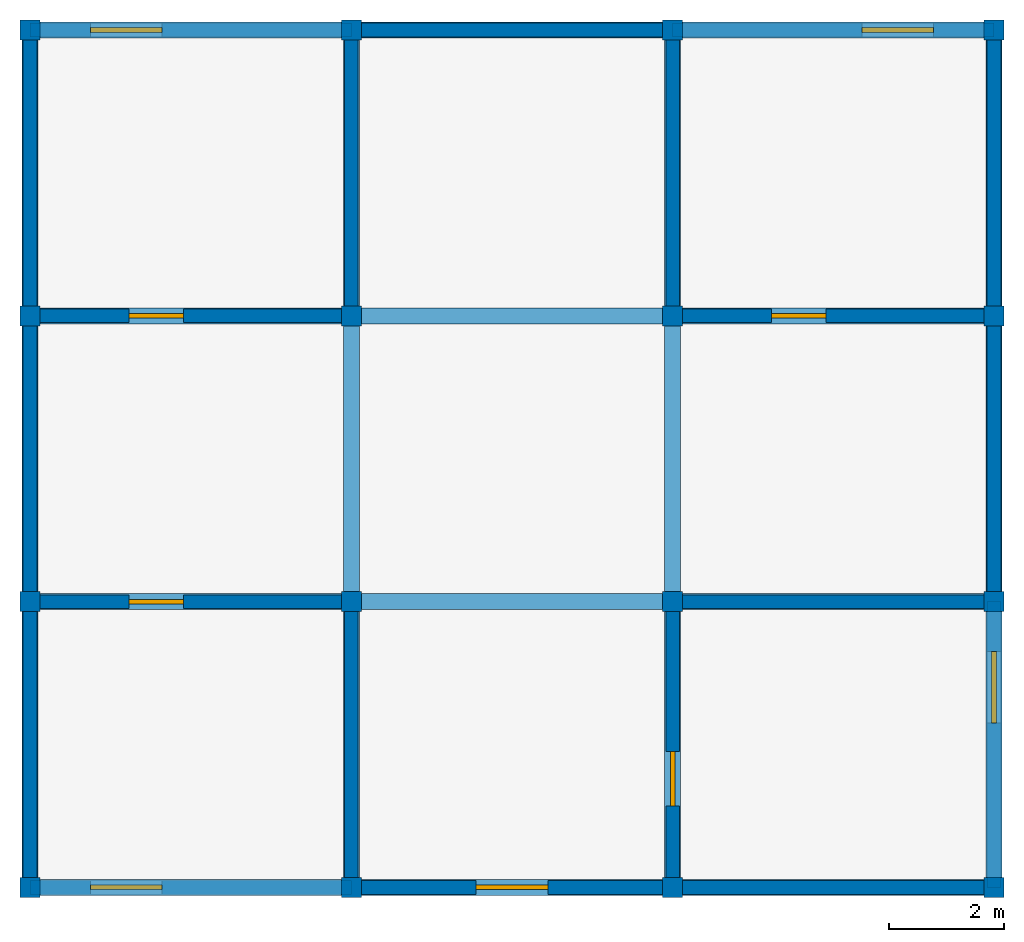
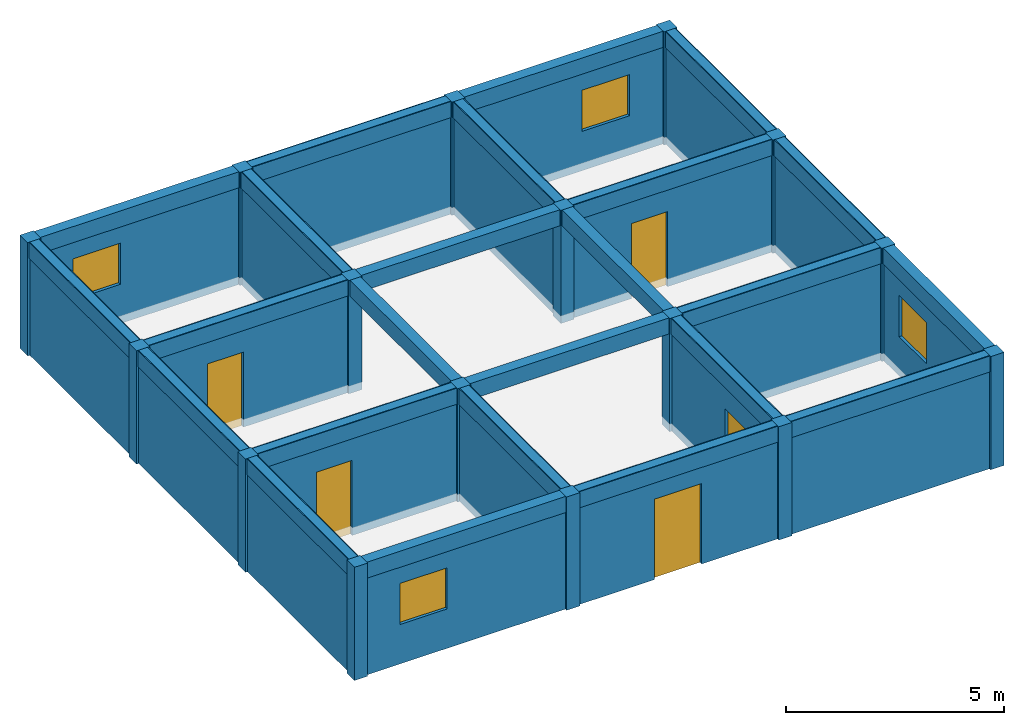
# One storey, incomplete: 24 beams, 20 walls, 16 columns, 5 doors, 4 windows, 9 openings.
"""IFC4X3 building model written with IfcOpenShell, lengths in metres."""

import ifcopenshell
import ifcopenshell.guid

model = None  # the IFC model being written
_history = None  # IfcOwnerHistory: only IFC2X3 demands one
_inside = {}  # id of a spatial element -> (the spatial element, [elements in it])
_under = {}  # id of a project, library or spatial element -> (it, [spatial elements below it])
_declared = {}  # id of a project -> (the project, [libraries it declares])
_typed = {}  # id of a type object -> (the type object, [elements of that type])
_made_of = {}  # id of a material, layer set ... -> (it, [elements and type objects made of it])


def new_model(schema):
    """Start an empty IFC model of exactly this schema.

    Asked for "IFC4X3", IfcOpenShell would pick the latest addendum, in which some entities
    have other attributes; the version numbers below select the first issue.
    IFC2X3 requires an IfcOwnerHistory on every rooted entity: one is made here for all.
    """
    global model, _history
    if schema == "IFC4X3":
        model = ifcopenshell.file(schema_version=(4, 3, 0, 0))
    else:
        model = ifcopenshell.file(schema=schema)
    _inside.clear()
    _under.clear()
    _declared.clear()
    _typed.clear()
    _made_of.clear()
    _history = None
    if model.schema == "IFC2X3":
        org = make("IfcOrganization", Name="unknown")
        user = make(
            "IfcPersonAndOrganization",
            ThePerson=make("IfcPerson", FamilyName="unknown"),
            TheOrganization=org,
        )
        app = make(
            "IfcApplication",
            ApplicationDeveloper=org,
            Version="unknown",
            ApplicationFullName="unknown",
            ApplicationIdentifier="unknown",
        )
        _history = make(
            "IfcOwnerHistory",
            OwningUser=user,
            OwningApplication=app,
            ChangeAction="ADDED",
            CreationDate=0,
        )
    return model


def make(cls, **values):
    """One entity of the class cls with the attributes given. An attribute that is None is left unset."""
    return model.create_entity(
        cls, **{name: value for name, value in values.items() if value is not None}
    )


def rooted(cls, **values):
    """An entity with a GlobalId (a new one), such as an element, a storey or a relation."""
    return make(cls, GlobalId=ifcopenshell.guid.new(), OwnerHistory=_history, **values)


def si_unit(unit_type, name, prefix=None):
    """IfcSIUnit, for example si_unit("LENGTHUNIT", "METRE", prefix="MILLI")."""
    return make("IfcSIUnit", UnitType=unit_type, Prefix=prefix, Name=name)


def assignment(units):
    """IfcUnitAssignment: the units of a project."""
    return None if units is None else make("IfcUnitAssignment", Units=units)


def point(xyz):
    """IfcCartesianPoint."""
    return None if xyz is None else make("IfcCartesianPoint", Coordinates=xyz)


def direction(xyz):
    """IfcDirection."""
    return None if xyz is None else make("IfcDirection", DirectionRatios=xyz)


def frame(location, z_axis=None, x_axis=None):
    """IfcAxis2Placement3D, a coordinate frame: its origin and axes. An axis left out is left unset."""
    return make(
        "IfcAxis2Placement3D",
        Location=point(location),
        Axis=direction(z_axis),
        RefDirection=direction(x_axis),
    )


def frame_2d(location, x_axis=None):
    """IfcAxis2Placement2D, a coordinate frame in the plane: its origin and x axis."""
    return make(
        "IfcAxis2Placement2D", Location=point(location), RefDirection=direction(x_axis)
    )


def origin_with_axes():
    """The frame at (0, 0, 0) with the z axis (0, 0, 1) and the x axis (1, 0, 0) written out."""
    return frame((0.0, 0.0, 0.0), z_axis=(0.0, 0.0, 1.0), x_axis=(1.0, 0.0, 0.0))


def origin_2d():
    """The frame at (0, 0) in the plane with its x axis left unset."""
    return frame_2d((0.0, 0.0))


def place(relative_to, where):
    """IfcLocalPlacement: puts the frame where relative to a parent placement (None: the world)."""
    return make(
        "IfcLocalPlacement", PlacementRelTo=relative_to, RelativePlacement=where
    )


def context(
    kind, dimensions, precision=None, world=None, true_north=None, identifier=None
):
    """IfcGeometricRepresentationContext, for example the 3D "Model" context."""
    return make(
        "IfcGeometricRepresentationContext",
        ContextIdentifier=identifier,
        ContextType=kind,
        CoordinateSpaceDimension=dimensions,
        Precision=precision,
        WorldCoordinateSystem=world,
        TrueNorth=true_north,
    )


def project(units=None, contexts=None):
    """IfcProject with its units and contexts."""
    return rooted(
        "IfcProject",
        Name="project",
        RepresentationContexts=contexts,
        UnitsInContext=assignment(units),
    )


def spatial(cls, under=None, at=None, **own):
    """A site, building, storey or space (cls), placed at a placement, below another one or the project."""
    s = rooted(cls, ObjectPlacement=at, **own)
    if under is not None:
        _under.setdefault(under.id(), (under, []))[1].append(s)
    return s


def profile(cls, at=None, kind="AREA", **sizes):
    """A parametric profile (cls). Its sizes go by their IFC names, for example OverallWidth=200.0."""
    return make(cls, ProfileType=kind, Position=at, **sizes)


def rectangle(**sizes):
    """IfcRectangleProfileDef."""
    return profile("IfcRectangleProfileDef", **sizes)


def extrude(swept, where, along, depth):
    """IfcExtrudedAreaSolid: the profile swept, set in the frame where, extruded along a direction by depth."""
    return make(
        "IfcExtrudedAreaSolid",
        SweptArea=swept,
        Position=where,
        ExtrudedDirection=direction(along),
        Depth=depth,
    )


def shape(context_of_items, identifier, shape_type, items):
    """IfcShapeRepresentation: the items that make up one representation, for example the "Body"."""
    return make(
        "IfcShapeRepresentation",
        ContextOfItems=context_of_items,
        RepresentationIdentifier=identifier,
        RepresentationType=shape_type,
        Items=items,
    )


def material(Name=None, Category=None):
    """IfcMaterial."""
    return make("IfcMaterial", Name=Name, Category=Category)


def made_of(thing, what):
    """Note that an element or type object is made of a material, layer set ...; save() writes the relation."""
    if what is not None:
        _made_of.setdefault(what.id(), (what, []))[1].append(thing)
    return thing


def element(
    cls,
    number,
    at=None,
    inside=None,
    cuts=None,
    type_object=None,
    material=None,
    context=None,
    identifier="Body",
    shape_type=None,
    held_by="IfcProductDefinitionShape",
    body=None,
    shapes=None,
    **own,
):
    """One element of the class cls, such as IfcWall. Its Tag is "e" and its number.

    at: its placement. inside: the storey or other place that contains it. cuts: it is an
    opening in that element (IfcRelVoidsElement). A single representation is given by context,
    identifier, shape_type and body (its items); several are given by shapes. held_by: the class
    of the entity that holds the representations. save() writes the other relations.
    """
    e = rooted(cls, Tag="e%d" % number, ObjectPlacement=at, **own)
    if body is not None:
        shapes = [shape(context, identifier, shape_type, body)]
    if shapes is not None:
        e.Representation = make(held_by, Representations=shapes)
    if inside is not None:
        _inside.setdefault(inside.id(), (inside, []))[1].append(e)
    if cuts is not None:
        rooted(
            "IfcRelVoidsElement", RelatingBuildingElement=cuts, RelatedOpeningElement=e
        )
    if type_object is not None:
        _typed.setdefault(type_object.id(), (type_object, []))[1].append(e)
    return made_of(e, material)


def fill(opening, filler):
    """IfcRelFillsElement: the door or window that sits in an opening."""
    return rooted(
        "IfcRelFillsElement",
        RelatingOpeningElement=opening,
        RelatedBuildingElement=filler,
    )


def aggregate(whole, parts):
    """IfcRelAggregates: a whole, such as a stair, and the parts it consists of."""
    return rooted("IfcRelAggregates", RelatingObject=whole, RelatedObjects=parts)


def save(model, path):
    """Write the relations noted so far, then the file.

    IfcRelAggregates (storeys below a building ...), IfcRelContainedInSpatialStructure (elements
    in a storey), IfcRelDefinesByType, IfcRelAssociatesMaterial and IfcRelDeclares: one each for
    every whole, place, type object, material and project.
    """
    for whole, parts in _under.values():
        aggregate(whole, parts)
    for where, things in _inside.values():
        rooted(
            "IfcRelContainedInSpatialStructure",
            RelatedElements=things,
            RelatingStructure=where,
        )
    for kind, things in _typed.values():
        rooted("IfcRelDefinesByType", RelatedObjects=things, RelatingType=kind)
    for what, things in _made_of.values():
        rooted("IfcRelAssociatesMaterial", RelatedObjects=things, RelatingMaterial=what)
    for by, libraries in _declared.values():
        rooted("IfcRelDeclares", RelatingContext=by, RelatedDefinitions=libraries)
    model.write(path)


model = new_model("IFC4X3")

# Units and contexts
model_context = context("Model", 3, precision=1e-05, world=origin_with_axes())
ifc_project = project(units=[si_unit("LENGTHUNIT", "METRE"), si_unit("AREAUNIT", "SQUARE_METRE"), si_unit("VOLUMEUNIT", "CUBIC_METRE")], contexts=[model_context])

# Site, building, storey
site = spatial("IfcSite", under=ifc_project, Name="Puerto Montt Parcel", CompositionType="ELEMENT")
building = spatial("IfcBuilding", under=site, Name="Apex Hub", CompositionType="ELEMENT")
storey = spatial("IfcBuildingStorey", under=building, Name="Level 1", CompositionType="ELEMENT")

# Columns
ifc_material_1 = material(Name="Concrete")
column_1_placement = place(None, frame((-8.415, -7.485, 0.0), z_axis=(0.0, 0.0, 1.0), x_axis=(1.0, 0.0, 0.0)))
element("IfcColumn", 1, at=column_1_placement, inside=storey, material=ifc_material_1, Name="Column 1.1", ObjectType="Core Column", PredefinedType="COLUMN", context=model_context, shape_type="SweptSolid", body=[
    extrude(rectangle(XDim=0.35, YDim=0.35, at=origin_2d()), origin_with_axes(), (0.0, 0.0, 1.0), 3.167),
])
column_2_placement = place(None, frame((-8.415, -2.495, 0.0), z_axis=(0.0, 0.0, 1.0), x_axis=(1.0, 0.0, 0.0)))
element("IfcColumn", 2, at=column_2_placement, inside=storey, material=ifc_material_1, Name="Column 1.2", ObjectType="Structural Column", PredefinedType="COLUMN", context=model_context, shape_type="SweptSolid", body=[
    extrude(rectangle(XDim=0.35, YDim=0.35, at=origin_2d()), origin_with_axes(), (0.0, 0.0, 1.0), 3.167),
])
column_3_placement = place(None, frame((-8.415, 2.495, 0.0), z_axis=(0.0, 0.0, 1.0), x_axis=(1.0, 0.0, 0.0)))
element("IfcColumn", 3, at=column_3_placement, inside=storey, material=ifc_material_1, Name="Column 1.3", ObjectType="Facade Column", PredefinedType="USERDEFINED", context=model_context, shape_type="SweptSolid", body=[
    extrude(rectangle(XDim=0.35, YDim=0.35, at=origin_2d()), origin_with_axes(), (0.0, 0.0, 1.0), 3.167),
])
for number, where, z_axis, x_axis, name in (
    (4, (-8.415, 7.485, 0.0), (0.0, 0.0, 1.0), (1.0, 0.0, 0.0), "Column 1.4"),
    (5, (-2.805, -7.485, 0.0), (0.0, 0.0, 1.0), (1.0, 0.0, 0.0), "Column 1.5"),
):
    element("IfcColumn", number, at=place(None, frame(where, z_axis=z_axis, x_axis=x_axis)), inside=storey, material=ifc_material_1, Name=name, ObjectType="Structural Column", PredefinedType="PILASTER", context=model_context, shape_type="SweptSolid", body=[
        extrude(rectangle(XDim=0.35, YDim=0.35, at=origin_2d()), origin_with_axes(), (0.0, 0.0, 1.0), 3.167),
    ])
column_4_placement = place(None, frame((-2.805, -2.495, 0.0), z_axis=(0.0, 0.0, 1.0), x_axis=(1.0, 0.0, 0.0)))
element("IfcColumn", 6, at=column_4_placement, inside=storey, material=ifc_material_1, Name="Column 1.6", ObjectType="Core Column", PredefinedType="PILASTER", context=model_context, shape_type="SweptSolid", body=[
    extrude(rectangle(XDim=0.35, YDim=0.35, at=origin_2d()), origin_with_axes(), (0.0, 0.0, 1.0), 3.167),
])
column_5_placement = place(None, frame((-2.805, 2.495, 0.0), z_axis=(0.0, 0.0, 1.0), x_axis=(1.0, 0.0, 0.0)))
element("IfcColumn", 7, at=column_5_placement, inside=storey, material=ifc_material_1, Name="Column 1.7", ObjectType="Facade Column", PredefinedType="NOTDEFINED", context=model_context, shape_type="SweptSolid", body=[
    extrude(rectangle(XDim=0.35, YDim=0.35, at=origin_2d()), origin_with_axes(), (0.0, 0.0, 1.0), 3.167),
])
column_6_placement = place(None, frame((-2.805, 7.485, 0.0), z_axis=(0.0, 0.0, 1.0), x_axis=(1.0, 0.0, 0.0)))
element("IfcColumn", 8, at=column_6_placement, inside=storey, material=ifc_material_1, Name="Column 1.8", ObjectType="Corner Column", PredefinedType="COLUMN", context=model_context, shape_type="SweptSolid", body=[
    extrude(rectangle(XDim=0.35, YDim=0.35, at=origin_2d()), origin_with_axes(), (0.0, 0.0, 1.0), 3.167),
])
column_7_placement = place(None, frame((2.805, -7.485, 0.0), z_axis=(0.0, 0.0, 1.0), x_axis=(1.0, 0.0, 0.0)))
element("IfcColumn", 9, at=column_7_placement, inside=storey, material=ifc_material_1, Name="Column 1.9", ObjectType="Structural Column", PredefinedType="PILASTER", context=model_context, shape_type="SweptSolid", body=[
    extrude(rectangle(XDim=0.35, YDim=0.35, at=origin_2d()), origin_with_axes(), (0.0, 0.0, 1.0), 3.167),
])
column_8_placement = place(None, frame((2.805, -2.495, 0.0), z_axis=(0.0, 0.0, 1.0), x_axis=(1.0, 0.0, 0.0)))
element("IfcColumn", 10, at=column_8_placement, inside=storey, material=ifc_material_1, Name="Column 1.10", ObjectType="Core Column", PredefinedType="NOTDEFINED", context=model_context, shape_type="SweptSolid", body=[
    extrude(rectangle(XDim=0.35, YDim=0.35, at=origin_2d()), origin_with_axes(), (0.0, 0.0, 1.0), 3.167),
])
column_9_placement = place(None, frame((2.805, 2.495, 0.0), z_axis=(0.0, 0.0, 1.0), x_axis=(1.0, 0.0, 0.0)))
element("IfcColumn", 11, at=column_9_placement, inside=storey, material=ifc_material_1, Name="Column 1.11", ObjectType="Core Column", PredefinedType="USERDEFINED", context=model_context, shape_type="SweptSolid", body=[
    extrude(rectangle(XDim=0.35, YDim=0.35, at=origin_2d()), origin_with_axes(), (0.0, 0.0, 1.0), 3.167),
])
column_10_placement = place(None, frame((2.805, 7.485, 0.0), z_axis=(0.0, 0.0, 1.0), x_axis=(1.0, 0.0, 0.0)))
element("IfcColumn", 12, at=column_10_placement, inside=storey, material=ifc_material_1, Name="Column 1.12", ObjectType="Corner Column", PredefinedType="USERDEFINED", context=model_context, shape_type="SweptSolid", body=[
    extrude(rectangle(XDim=0.35, YDim=0.35, at=origin_2d()), origin_with_axes(), (0.0, 0.0, 1.0), 3.167),
])
column_11_placement = place(None, frame((8.415, -7.485, 0.0), z_axis=(0.0, 0.0, 1.0), x_axis=(1.0, 0.0, 0.0)))
element("IfcColumn", 13, at=column_11_placement, inside=storey, material=ifc_material_1, Name="Column 1.13", ObjectType="Core Column", PredefinedType="PILASTER", context=model_context, shape_type="SweptSolid", body=[
    extrude(rectangle(XDim=0.35, YDim=0.35, at=origin_2d()), origin_with_axes(), (0.0, 0.0, 1.0), 3.167),
])
column_12_placement = place(None, frame((8.415, -2.495, 0.0), z_axis=(0.0, 0.0, 1.0), x_axis=(1.0, 0.0, 0.0)))
element("IfcColumn", 14, at=column_12_placement, inside=storey, material=ifc_material_1, Name="Column 1.14", ObjectType="Structural Column", PredefinedType="COLUMN", context=model_context, shape_type="SweptSolid", body=[
    extrude(rectangle(XDim=0.35, YDim=0.35, at=origin_2d()), origin_with_axes(), (0.0, 0.0, 1.0), 3.167),
])
column_13_placement = place(None, frame((8.415, 2.495, 0.0), z_axis=(0.0, 0.0, 1.0), x_axis=(1.0, 0.0, 0.0)))
element("IfcColumn", 15, at=column_13_placement, inside=storey, material=ifc_material_1, Name="Column 1.15", ObjectType="Facade Column", PredefinedType="PILASTER", context=model_context, shape_type="SweptSolid", body=[
    extrude(rectangle(XDim=0.35, YDim=0.35, at=origin_2d()), origin_with_axes(), (0.0, 0.0, 1.0), 3.167),
])
column_14_placement = place(None, frame((8.415, 7.485, 0.0), z_axis=(0.0, 0.0, 1.0), x_axis=(1.0, 0.0, 0.0)))
element("IfcColumn", 16, at=column_14_placement, inside=storey, material=ifc_material_1, Name="Column 1.16", ObjectType="Corner Column", PredefinedType="COLUMN", context=model_context, shape_type="SweptSolid", body=[
    extrude(rectangle(XDim=0.35, YDim=0.35, at=origin_2d()), origin_with_axes(), (0.0, 0.0, 1.0), 3.167),
])

# Beams
beam_1_placement = place(None, frame((-5.61, -7.485, 2.717), z_axis=(0.0, 0.0, 1.0), x_axis=(1.0, 0.0, 0.0)))
element("IfcBeam", 17, at=beam_1_placement, inside=storey, material=ifc_material_1, Name="Beam 1.1", ObjectType="Primary Beam", PredefinedType="NOTDEFINED", context=model_context, shape_type="SweptSolid", body=[
    extrude(rectangle(XDim=5.61, YDim=0.28, at=origin_2d()), origin_with_axes(), (0.0, 0.0, 1.0), 0.45),
])
beam_2_placement = place(None, frame((0.0, -7.485, 2.717), z_axis=(0.0, 0.0, 1.0), x_axis=(1.0, 0.0, 0.0)))
element("IfcBeam", 18, at=beam_2_placement, inside=storey, material=ifc_material_1, Name="Beam 1.2", ObjectType="Transfer Beam", PredefinedType="T_BEAM", context=model_context, shape_type="SweptSolid", body=[
    extrude(rectangle(XDim=5.61, YDim=0.28, at=origin_2d()), origin_with_axes(), (0.0, 0.0, 1.0), 0.45),
])
beam_3_placement = place(None, frame((5.61, -7.485, 2.717), z_axis=(0.0, 0.0, 1.0), x_axis=(1.0, 0.0, 0.0)))
element("IfcBeam", 19, at=beam_3_placement, inside=storey, material=ifc_material_1, Name="Beam 1.3", ObjectType="Rafter Beam", PredefinedType="JOIST", context=model_context, shape_type="SweptSolid", body=[
    extrude(rectangle(XDim=5.61, YDim=0.28, at=origin_2d()), origin_with_axes(), (0.0, 0.0, 1.0), 0.45),
])
beam_4_placement = place(None, frame((-5.61, -2.495, 2.717), z_axis=(0.0, 0.0, 1.0), x_axis=(1.0, 0.0, 0.0)))
element("IfcBeam", 20, at=beam_4_placement, inside=storey, material=ifc_material_1, Name="Beam 1.4", ObjectType="Secondary Beam", PredefinedType="BEAM", context=model_context, shape_type="SweptSolid", body=[
    extrude(rectangle(XDim=5.61, YDim=0.28, at=origin_2d()), origin_with_axes(), (0.0, 0.0, 1.0), 0.45),
])
beam_5_placement = place(None, frame((0.0, -2.495, 2.717), z_axis=(0.0, 0.0, 1.0), x_axis=(1.0, 0.0, 0.0)))
element("IfcBeam", 21, at=beam_5_placement, inside=storey, material=ifc_material_1, Name="Beam 1.5", ObjectType="Rafter Beam", PredefinedType="NOTDEFINED", context=model_context, shape_type="SweptSolid", body=[
    extrude(rectangle(XDim=5.61, YDim=0.28, at=origin_2d()), origin_with_axes(), (0.0, 0.0, 1.0), 0.45),
])
beam_6_placement = place(None, frame((5.61, -2.495, 2.717), z_axis=(0.0, 0.0, 1.0), x_axis=(1.0, 0.0, 0.0)))
element("IfcBeam", 22, at=beam_6_placement, inside=storey, material=ifc_material_1, Name="Beam 1.6", ObjectType="Secondary Beam", PredefinedType="JOIST", context=model_context, shape_type="SweptSolid", body=[
    extrude(rectangle(XDim=5.61, YDim=0.28, at=origin_2d()), origin_with_axes(), (0.0, 0.0, 1.0), 0.45),
])
beam_7_placement = place(None, frame((-5.61, 2.495, 2.717), z_axis=(0.0, 0.0, 1.0), x_axis=(1.0, 0.0, 0.0)))
element("IfcBeam", 23, at=beam_7_placement, inside=storey, material=ifc_material_1, Name="Beam 1.7", ObjectType="Rafter Beam", PredefinedType="SPANDREL", context=model_context, shape_type="SweptSolid", body=[
    extrude(rectangle(XDim=5.61, YDim=0.28, at=origin_2d()), origin_with_axes(), (0.0, 0.0, 1.0), 0.45),
])
beam_8_placement = place(None, frame((0.0, 2.495, 2.717), z_axis=(0.0, 0.0, 1.0), x_axis=(1.0, 0.0, 0.0)))
element("IfcBeam", 24, at=beam_8_placement, inside=storey, material=ifc_material_1, Name="Beam 1.8", ObjectType="Ridge Beam", PredefinedType="BEAM", context=model_context, shape_type="SweptSolid", body=[
    extrude(rectangle(XDim=5.61, YDim=0.28, at=origin_2d()), origin_with_axes(), (0.0, 0.0, 1.0), 0.45),
])
beam_9_placement = place(None, frame((5.61, 2.495, 2.717), z_axis=(0.0, 0.0, 1.0), x_axis=(1.0, 0.0, 0.0)))
element("IfcBeam", 25, at=beam_9_placement, inside=storey, material=ifc_material_1, Name="Beam 1.9", ObjectType="Rafter Beam", PredefinedType="LINTEL", context=model_context, shape_type="SweptSolid", body=[
    extrude(rectangle(XDim=5.61, YDim=0.28, at=origin_2d()), origin_with_axes(), (0.0, 0.0, 1.0), 0.45),
])
beam_10_placement = place(None, frame((-5.61, 7.485, 2.717), z_axis=(0.0, 0.0, 1.0), x_axis=(1.0, 0.0, 0.0)))
element("IfcBeam", 26, at=beam_10_placement, inside=storey, material=ifc_material_1, Name="Beam 1.10", ObjectType="Ridge Beam", PredefinedType="SPANDREL", context=model_context, shape_type="SweptSolid", body=[
    extrude(rectangle(XDim=5.61, YDim=0.28, at=origin_2d()), origin_with_axes(), (0.0, 0.0, 1.0), 0.45),
])
beam_11_placement = place(None, frame((0.0, 7.485, 2.717), z_axis=(0.0, 0.0, 1.0), x_axis=(1.0, 0.0, 0.0)))
element("IfcBeam", 27, at=beam_11_placement, inside=storey, material=ifc_material_1, Name="Beam 1.11", ObjectType="Transfer Beam", PredefinedType="JOIST", context=model_context, shape_type="SweptSolid", body=[
    extrude(rectangle(XDim=5.61, YDim=0.28, at=origin_2d()), origin_with_axes(), (0.0, 0.0, 1.0), 0.45),
])
beam_12_placement = place(None, frame((5.61, 7.485, 2.717), z_axis=(0.0, 0.0, 1.0), x_axis=(1.0, 0.0, 0.0)))
element("IfcBeam", 28, at=beam_12_placement, inside=storey, material=ifc_material_1, Name="Beam 1.12", ObjectType="Ridge Beam", PredefinedType="HOLLOWCORE", context=model_context, shape_type="SweptSolid", body=[
    extrude(rectangle(XDim=5.61, YDim=0.28, at=origin_2d()), origin_with_axes(), (0.0, 0.0, 1.0), 0.45),
])
for number, where, z_axis, x_axis, name in (
    (29, (-8.415, -4.99, 2.717), (0.0, 0.0, 1.0), (0.0, 1.0, 0.0), "Beam 1.13"),
    (30, (-8.415, 0.0, 2.717), (0.0, 0.0, 1.0), (0.0, 1.0, 0.0), "Beam 1.14"),
):
    element("IfcBeam", number, at=place(None, frame(where, z_axis=z_axis, x_axis=x_axis)), inside=storey, material=ifc_material_1, Name=name, ObjectType="Transfer Beam", PredefinedType="JOIST", context=model_context, shape_type="SweptSolid", body=[
        extrude(rectangle(XDim=4.99, YDim=0.28, at=origin_2d()), origin_with_axes(), (0.0, 0.0, 1.0), 0.45),
    ])
beam_13_placement = place(None, frame((-8.415, 4.99, 2.717), z_axis=(0.0, 0.0, 1.0), x_axis=(0.0, 1.0, 0.0)))
element("IfcBeam", 31, at=beam_13_placement, inside=storey, material=ifc_material_1, Name="Beam 1.15", ObjectType="Transfer Beam", PredefinedType="LINTEL", context=model_context, shape_type="SweptSolid", body=[
    extrude(rectangle(XDim=4.99, YDim=0.28, at=origin_2d()), origin_with_axes(), (0.0, 0.0, 1.0), 0.45),
])
beam_14_placement = place(None, frame((-2.805, -4.99, 2.717), z_axis=(0.0, 0.0, 1.0), x_axis=(0.0, 1.0, 0.0)))
element("IfcBeam", 32, at=beam_14_placement, inside=storey, material=ifc_material_1, Name="Beam 1.16", ObjectType="Secondary Beam", PredefinedType="BEAM", context=model_context, shape_type="SweptSolid", body=[
    extrude(rectangle(XDim=4.99, YDim=0.28, at=origin_2d()), origin_with_axes(), (0.0, 0.0, 1.0), 0.45),
])
beam_15_placement = place(None, frame((-2.805, 0.0, 2.717), z_axis=(0.0, 0.0, 1.0), x_axis=(0.0, 1.0, 0.0)))
element("IfcBeam", 33, at=beam_15_placement, inside=storey, material=ifc_material_1, Name="Beam 1.17", ObjectType="Secondary Beam", PredefinedType="USERDEFINED", context=model_context, shape_type="SweptSolid", body=[
    extrude(rectangle(XDim=4.99, YDim=0.28, at=origin_2d()), origin_with_axes(), (0.0, 0.0, 1.0), 0.45),
])
beam_16_placement = place(None, frame((-2.805, 4.99, 2.717), z_axis=(0.0, 0.0, 1.0), x_axis=(0.0, 1.0, 0.0)))
element("IfcBeam", 34, at=beam_16_placement, inside=storey, material=ifc_material_1, Name="Beam 1.18", ObjectType="Secondary Beam", PredefinedType="HOLLOWCORE", context=model_context, shape_type="SweptSolid", body=[
    extrude(rectangle(XDim=4.99, YDim=0.28, at=origin_2d()), origin_with_axes(), (0.0, 0.0, 1.0), 0.45),
])
beam_17_placement = place(None, frame((2.805, -4.99, 2.717), z_axis=(0.0, 0.0, 1.0), x_axis=(0.0, 1.0, 0.0)))
element("IfcBeam", 35, at=beam_17_placement, inside=storey, material=ifc_material_1, Name="Beam 1.19", ObjectType="Transfer Beam", PredefinedType="LINTEL", context=model_context, shape_type="SweptSolid", body=[
    extrude(rectangle(XDim=4.99, YDim=0.28, at=origin_2d()), origin_with_axes(), (0.0, 0.0, 1.0), 0.45),
])
beam_18_placement = place(None, frame((2.805, 0.0, 2.717), z_axis=(0.0, 0.0, 1.0), x_axis=(0.0, 1.0, 0.0)))
element("IfcBeam", 36, at=beam_18_placement, inside=storey, material=ifc_material_1, Name="Beam 1.20", ObjectType="Primary Beam", PredefinedType="LINTEL", context=model_context, shape_type="SweptSolid", body=[
    extrude(rectangle(XDim=4.99, YDim=0.28, at=origin_2d()), origin_with_axes(), (0.0, 0.0, 1.0), 0.45),
])
beam_19_placement = place(None, frame((2.805, 4.99, 2.717), z_axis=(0.0, 0.0, 1.0), x_axis=(0.0, 1.0, 0.0)))
element("IfcBeam", 37, at=beam_19_placement, inside=storey, material=ifc_material_1, Name="Beam 1.21", ObjectType="Ridge Beam", PredefinedType="JOIST", context=model_context, shape_type="SweptSolid", body=[
    extrude(rectangle(XDim=4.99, YDim=0.28, at=origin_2d()), origin_with_axes(), (0.0, 0.0, 1.0), 0.45),
])
beam_20_placement = place(None, frame((8.415, -4.99, 2.717), z_axis=(0.0, 0.0, 1.0), x_axis=(0.0, 1.0, 0.0)))
element("IfcBeam", 38, at=beam_20_placement, inside=storey, material=ifc_material_1, Name="Beam 1.22", ObjectType="Primary Beam", PredefinedType="T_BEAM", context=model_context, shape_type="SweptSolid", body=[
    extrude(rectangle(XDim=4.99, YDim=0.28, at=origin_2d()), origin_with_axes(), (0.0, 0.0, 1.0), 0.45),
])
beam_21_placement = place(None, frame((8.415, 0.0, 2.717), z_axis=(0.0, 0.0, 1.0), x_axis=(0.0, 1.0, 0.0)))
element("IfcBeam", 39, at=beam_21_placement, inside=storey, material=ifc_material_1, Name="Beam 1.23", ObjectType="Secondary Beam", PredefinedType="USERDEFINED", context=model_context, shape_type="SweptSolid", body=[
    extrude(rectangle(XDim=4.99, YDim=0.28, at=origin_2d()), origin_with_axes(), (0.0, 0.0, 1.0), 0.45),
])
beam_22_placement = place(None, frame((8.415, 4.99, 2.717), z_axis=(0.0, 0.0, 1.0), x_axis=(0.0, 1.0, 0.0)))
element("IfcBeam", 40, at=beam_22_placement, inside=storey, material=ifc_material_1, Name="Beam 1.24", ObjectType="Ridge Beam", PredefinedType="SPANDREL", context=model_context, shape_type="SweptSolid", body=[
    extrude(rectangle(XDim=4.99, YDim=0.28, at=origin_2d()), origin_with_axes(), (0.0, 0.0, 1.0), 0.45),
])

# Wall, opening, door
ifc_material_2 = material(Name="Gypsum")
wall_1_placement = place(None, frame((-5.61, -2.495, 0.0), z_axis=(0.0, 0.0, 1.0), x_axis=(1.0, 0.0, 0.0)))
wall_1 = element("IfcWall", 41, at=wall_1_placement, inside=storey, material=ifc_material_2, Name="Wall 1.1", ObjectType="Corridor Partition", PredefinedType="PLUMBINGWALL", context=model_context, shape_type="SweptSolid", body=[
    extrude(rectangle(XDim=5.61, YDim=0.238521, at=origin_2d()), origin_with_axes(), (0.0, 0.0, 1.0), 3.167),
])
opening_1_placement = place(None, frame((-6.21, -2.495, 0.0), z_axis=(0.0, 0.0, 1.0), x_axis=(1.0, 0.0, 0.0)))
opening_1 = element("IfcOpeningElement", 42, at=opening_1_placement, cuts=wall_1, Name="Door opening 1.1", ObjectType="Door Opening", PredefinedType="OPENING", context=model_context, shape_type="SweptSolid", body=[
    extrude(rectangle(XDim=0.95, YDim=0.318521, at=origin_2d()), origin_with_axes(), (0.0, 0.0, 1.0), 2.1),
])
door_1_placement = place(None, frame((-6.21, -2.495, 0.0), z_axis=(0.0, 0.0, 1.0), x_axis=(1.0, 0.0, 0.0)))
door_1 = element("IfcDoor", 43, at=door_1_placement, inside=storey, Name="Door 1.1", ObjectType="Fire Door", OverallHeight=2.1, OverallWidth=0.95, context=model_context, shape_type="SweptSolid", body=[
    extrude(rectangle(XDim=0.95, YDim=0.08, at=origin_2d()), origin_with_axes(), (0.0, 0.0, 1.0), 2.1),
])
fill(opening_1, door_1)

# Wall
wall_2_placement = place(None, frame((-2.805, -4.99, 0.0), z_axis=(0.0, 0.0, 1.0), x_axis=(0.0, 1.0, 0.0)))
element("IfcWall", 44, at=wall_2_placement, inside=storey, material=ifc_material_1, Name="Wall 1.2", ObjectType="Corridor Partition", PredefinedType="NOTDEFINED", context=model_context, shape_type="SweptSolid", body=[
    extrude(rectangle(XDim=4.99, YDim=0.238521, at=origin_2d()), origin_with_axes(), (0.0, 0.0, 1.0), 3.167),
])

# Wall, opening, window
wall_3_placement = place(None, frame((-5.61, -7.485, 0.0), z_axis=(0.0, 0.0, 1.0), x_axis=(1.0, 0.0, 0.0)))
wall_3 = element("IfcWall", 45, at=wall_3_placement, inside=storey, material=ifc_material_2, Name="Wall 1.3", ObjectType="Exterior Wall", PredefinedType="STANDARD", context=model_context, shape_type="SweptSolid", body=[
    extrude(rectangle(XDim=5.61, YDim=0.238521, at=origin_2d()), origin_with_axes(), (0.0, 0.0, 1.0), 3.167),
])
opening_2_placement = place(None, frame((-6.732, -7.485, 1.1), z_axis=(0.0, 0.0, 1.0), x_axis=(1.0, 0.0, 0.0)))
opening_2 = element("IfcOpeningElement", 46, at=opening_2_placement, cuts=wall_3, Name="Window opening 1.2", ObjectType="Window Opening", PredefinedType="OPENING", context=model_context, shape_type="SweptSolid", body=[
    extrude(rectangle(XDim=1.25, YDim=0.318521, at=origin_2d()), origin_with_axes(), (0.0, 0.0, 1.0), 1.15),
])
window_1_placement = place(None, frame((-6.732, -7.485, 1.1), z_axis=(0.0, 0.0, 1.0), x_axis=(1.0, 0.0, 0.0)))
window_1 = element("IfcWindow", 47, at=window_1_placement, inside=storey, Name="Window 1.2", ObjectType="Fixed Window", OverallHeight=1.15, OverallWidth=1.25, context=model_context, shape_type="SweptSolid", body=[
    extrude(rectangle(XDim=1.25, YDim=0.08, at=origin_2d()), origin_with_axes(), (0.0, 0.0, 1.0), 1.15),
])
fill(opening_2, window_1)

# Wall
ifc_material_3 = material(Name="CLT")
wall_4_placement = place(None, frame((-8.415, -4.99, 0.0), z_axis=(0.0, 0.0, 1.0), x_axis=(0.0, 1.0, 0.0)))
element("IfcWall", 48, at=wall_4_placement, inside=storey, material=ifc_material_3, Name="Wall 1.4", ObjectType="Exterior Wall", PredefinedType="PLUMBINGWALL", context=model_context, shape_type="SweptSolid", body=[
    extrude(rectangle(XDim=4.99, YDim=0.238521, at=origin_2d()), origin_with_axes(), (0.0, 0.0, 1.0), 3.167),
])

# Wall, opening, door
wall_5_placement = place(None, frame((2.805, -4.99, 0.0), z_axis=(0.0, 0.0, 1.0), x_axis=(0.0, 1.0, 0.0)))
wall_5 = element("IfcWall", 49, at=wall_5_placement, inside=storey, material=ifc_material_3, Name="Wall 1.5", ObjectType="Corridor Partition", PredefinedType="PLUMBINGWALL", context=model_context, shape_type="SweptSolid", body=[
    extrude(rectangle(XDim=4.99, YDim=0.238521, at=origin_2d()), origin_with_axes(), (0.0, 0.0, 1.0), 3.167),
])
opening_3_placement = place(None, frame((2.805, -5.59, 0.0), z_axis=(0.0, 0.0, 1.0), x_axis=(0.0, 1.0, 0.0)))
opening_3 = element("IfcOpeningElement", 50, at=opening_3_placement, cuts=wall_5, Name="Door opening 1.3", ObjectType="Door Opening", PredefinedType="OPENING", context=model_context, shape_type="SweptSolid", body=[
    extrude(rectangle(XDim=0.95, YDim=0.318521, at=origin_2d()), origin_with_axes(), (0.0, 0.0, 1.0), 2.1),
])
door_2_placement = place(None, frame((2.805, -5.59, 0.0), z_axis=(0.0, 0.0, 1.0), x_axis=(0.0, 1.0, 0.0)))
door_2 = element("IfcDoor", 51, at=door_2_placement, inside=storey, Name="Door 1.3", ObjectType="Fire Door", OverallHeight=2.1, OverallWidth=0.95, context=model_context, shape_type="SweptSolid", body=[
    extrude(rectangle(XDim=0.95, YDim=0.08, at=origin_2d()), origin_with_axes(), (0.0, 0.0, 1.0), 2.1),
])
fill(opening_3, door_2)

wall_6_placement = place(None, frame((0.0, -7.485, 0.0), z_axis=(0.0, 0.0, 1.0), x_axis=(1.0, 0.0, 0.0)))
wall_6 = element("IfcWall", 52, at=wall_6_placement, inside=storey, material=ifc_material_3, Name="Wall 1.6", ObjectType="Exterior Wall", PredefinedType="STANDARD", context=model_context, shape_type="SweptSolid", body=[
    extrude(rectangle(XDim=5.61, YDim=0.238521, at=origin_2d()), origin_with_axes(), (0.0, 0.0, 1.0), 3.167),
])
opening_4_placement = place(None, frame((0.0, -7.485, 0.0), z_axis=(0.0, 0.0, 1.0), x_axis=(1.0, 0.0, 0.0)))
opening_4 = element("IfcOpeningElement", 53, at=opening_4_placement, cuts=wall_6, Name="Door opening 1.9", ObjectType="Door Opening", PredefinedType="OPENING", context=model_context, shape_type="SweptSolid", body=[
    extrude(rectangle(XDim=1.25, YDim=0.318521, at=origin_2d()), origin_with_axes(), (0.0, 0.0, 1.0), 2.25),
])
door_3_placement = place(None, frame((0.0, -7.485, 0.0), z_axis=(0.0, 0.0, 1.0), x_axis=(1.0, 0.0, 0.0)))
door_3 = element("IfcDoor", 54, at=door_3_placement, inside=storey, Name="Door 1.9", ObjectType="Fire Door", OverallHeight=2.25, OverallWidth=1.25, context=model_context, shape_type="SweptSolid", body=[
    extrude(rectangle(XDim=1.25, YDim=0.08, at=origin_2d()), origin_with_axes(), (0.0, 0.0, 1.0), 2.25),
])
fill(opening_4, door_3)

# Wall
wall_7_placement = place(None, frame((5.61, -2.495, 0.0), z_axis=(0.0, 0.0, 1.0), x_axis=(1.0, 0.0, 0.0)))
element("IfcWall", 55, at=wall_7_placement, inside=storey, material=ifc_material_2, Name="Wall 1.7", ObjectType="Corridor Partition", PredefinedType="USERDEFINED", context=model_context, shape_type="SweptSolid", body=[
    extrude(rectangle(XDim=5.61, YDim=0.238521, at=origin_2d()), origin_with_axes(), (0.0, 0.0, 1.0), 3.167),
])

# Wall, opening, window
wall_8_placement = place(None, frame((8.415, -4.99, 0.0), z_axis=(0.0, 0.0, 1.0), x_axis=(0.0, 1.0, 0.0)))
wall_8 = element("IfcWall", 56, at=wall_8_placement, inside=storey, material=ifc_material_2, Name="Wall 1.8", ObjectType="Exterior Wall", PredefinedType="SOLIDWALL", context=model_context, shape_type="SweptSolid", body=[
    extrude(rectangle(XDim=4.99, YDim=0.238521, at=origin_2d()), origin_with_axes(), (0.0, 0.0, 1.0), 3.167),
])
opening_5_placement = place(None, frame((8.415, -3.992, 1.1), z_axis=(0.0, 0.0, 1.0), x_axis=(0.0, 1.0, 0.0)))
opening_5 = element("IfcOpeningElement", 57, at=opening_5_placement, cuts=wall_8, Name="Window opening 1.4", ObjectType="Window Opening", PredefinedType="OPENING", context=model_context, shape_type="SweptSolid", body=[
    extrude(rectangle(XDim=1.25, YDim=0.318521, at=origin_2d()), origin_with_axes(), (0.0, 0.0, 1.0), 1.15),
])
window_2_placement = place(None, frame((8.415, -3.992, 1.1), z_axis=(0.0, 0.0, 1.0), x_axis=(0.0, 1.0, 0.0)))
window_2 = element("IfcWindow", 58, at=window_2_placement, inside=storey, Name="Window 1.4", ObjectType="Curtain Window", OverallHeight=1.15, OverallWidth=1.25, context=model_context, shape_type="SweptSolid", body=[
    extrude(rectangle(XDim=1.25, YDim=0.08, at=origin_2d()), origin_with_axes(), (0.0, 0.0, 1.0), 1.15),
])
fill(opening_5, window_2)

# Wall
wall_9_placement = place(None, frame((5.61, -7.485, 0.0), z_axis=(0.0, 0.0, 1.0), x_axis=(1.0, 0.0, 0.0)))
element("IfcWall", 59, at=wall_9_placement, inside=storey, material=ifc_material_1, Name="Wall 1.9", ObjectType="Exterior Wall", PredefinedType="NOTDEFINED", context=model_context, shape_type="SweptSolid", body=[
    extrude(rectangle(XDim=5.61, YDim=0.238521, at=origin_2d()), origin_with_axes(), (0.0, 0.0, 1.0), 3.167),
])

# Wall, opening, door
wall_10_placement = place(None, frame((-5.61, 2.495, 0.0), z_axis=(0.0, 0.0, 1.0), x_axis=(1.0, 0.0, 0.0)))
wall_10 = element("IfcWall", 60, at=wall_10_placement, inside=storey, material=ifc_material_2, Name="Wall 1.10", ObjectType="Corridor Partition", PredefinedType="ELEMENTEDWALL", context=model_context, shape_type="SweptSolid", body=[
    extrude(rectangle(XDim=5.61, YDim=0.238521, at=origin_2d()), origin_with_axes(), (0.0, 0.0, 1.0), 3.167),
])
opening_6_placement = place(None, frame((-6.21, 2.495, 0.0), z_axis=(0.0, 0.0, 1.0), x_axis=(1.0, 0.0, 0.0)))
opening_6 = element("IfcOpeningElement", 61, at=opening_6_placement, cuts=wall_10, Name="Door opening 1.5", ObjectType="Door Opening", PredefinedType="OPENING", context=model_context, shape_type="SweptSolid", body=[
    extrude(rectangle(XDim=0.95, YDim=0.318521, at=origin_2d()), origin_with_axes(), (0.0, 0.0, 1.0), 2.1),
])
door_4_placement = place(None, frame((-6.21, 2.495, 0.0), z_axis=(0.0, 0.0, 1.0), x_axis=(1.0, 0.0, 0.0)))
door_4 = element("IfcDoor", 62, at=door_4_placement, inside=storey, Name="Door 1.5", ObjectType="Fire Door", OverallHeight=2.1, OverallWidth=0.95, context=model_context, shape_type="SweptSolid", body=[
    extrude(rectangle(XDim=0.95, YDim=0.08, at=origin_2d()), origin_with_axes(), (0.0, 0.0, 1.0), 2.1),
])
fill(opening_6, door_4)

# Wall
wall_11_placement = place(None, frame((-8.415, 0.0, 0.0), z_axis=(0.0, 0.0, 1.0), x_axis=(0.0, 1.0, 0.0)))
element("IfcWall", 63, at=wall_11_placement, inside=storey, material=ifc_material_2, Name="Wall 1.11", ObjectType="Exterior Wall", PredefinedType="ELEMENTEDWALL", context=model_context, shape_type="SweptSolid", body=[
    extrude(rectangle(XDim=4.99, YDim=0.238521, at=origin_2d()), origin_with_axes(), (0.0, 0.0, 1.0), 3.167),
])

# Wall, opening, door
ifc_material_4 = material(Name="Brick")
wall_12_placement = place(None, frame((5.61, 2.495, 0.0), z_axis=(0.0, 0.0, 1.0), x_axis=(1.0, 0.0, 0.0)))
wall_12 = element("IfcWall", 64, at=wall_12_placement, inside=storey, material=ifc_material_4, Name="Wall 1.12", ObjectType="Corridor Partition", PredefinedType="SHEAR", context=model_context, shape_type="SweptSolid", body=[
    extrude(rectangle(XDim=5.61, YDim=0.238521, at=origin_2d()), origin_with_axes(), (0.0, 0.0, 1.0), 3.167),
])
opening_7_placement = place(None, frame((5.01, 2.495, 0.0), z_axis=(0.0, 0.0, 1.0), x_axis=(1.0, 0.0, 0.0)))
opening_7 = element("IfcOpeningElement", 65, at=opening_7_placement, cuts=wall_12, Name="Door opening 1.7", ObjectType="Door Opening", PredefinedType="OPENING", context=model_context, shape_type="SweptSolid", body=[
    extrude(rectangle(XDim=0.95, YDim=0.318521, at=origin_2d()), origin_with_axes(), (0.0, 0.0, 1.0), 2.1),
])
door_5_placement = place(None, frame((5.01, 2.495, 0.0), z_axis=(0.0, 0.0, 1.0), x_axis=(1.0, 0.0, 0.0)))
door_5 = element("IfcDoor", 66, at=door_5_placement, inside=storey, Name="Door 1.7", ObjectType="Interior Door", OverallHeight=2.1, OverallWidth=0.95, context=model_context, shape_type="SweptSolid", body=[
    extrude(rectangle(XDim=0.95, YDim=0.08, at=origin_2d()), origin_with_axes(), (0.0, 0.0, 1.0), 2.1),
])
fill(opening_7, door_5)

# Wall
wall_13_placement = place(None, frame((8.415, 0.0, 0.0), z_axis=(0.0, 0.0, 1.0), x_axis=(0.0, 1.0, 0.0)))
element("IfcWall", 67, at=wall_13_placement, inside=storey, material=ifc_material_1, Name="Wall 1.13", ObjectType="Exterior Wall", PredefinedType="MOVABLE", context=model_context, shape_type="SweptSolid", body=[
    extrude(rectangle(XDim=4.99, YDim=0.238521, at=origin_2d()), origin_with_axes(), (0.0, 0.0, 1.0), 3.167),
])

# Wall, opening, window
wall_14_placement = place(None, frame((-5.61, 7.485, 0.0), z_axis=(0.0, 0.0, 1.0), x_axis=(1.0, 0.0, 0.0)))
wall_14 = element("IfcWall", 68, at=wall_14_placement, inside=storey, material=ifc_material_4, Name="Wall 1.14", ObjectType="Exterior Wall", PredefinedType="SOLIDWALL", context=model_context, shape_type="SweptSolid", body=[
    extrude(rectangle(XDim=5.61, YDim=0.238521, at=origin_2d()), origin_with_axes(), (0.0, 0.0, 1.0), 3.167),
])
opening_8_placement = place(None, frame((-6.732, 7.485, 1.1), z_axis=(0.0, 0.0, 1.0), x_axis=(1.0, 0.0, 0.0)))
opening_8 = element("IfcOpeningElement", 69, at=opening_8_placement, cuts=wall_14, Name="Window opening 1.6", ObjectType="Window Opening", PredefinedType="OPENING", context=model_context, shape_type="SweptSolid", body=[
    extrude(rectangle(XDim=1.25, YDim=0.318521, at=origin_2d()), origin_with_axes(), (0.0, 0.0, 1.0), 1.15),
])
window_3_placement = place(None, frame((-6.732, 7.485, 1.1), z_axis=(0.0, 0.0, 1.0), x_axis=(1.0, 0.0, 0.0)))
window_3 = element("IfcWindow", 70, at=window_3_placement, inside=storey, Name="Window 1.6", ObjectType="Curtain Window", OverallHeight=1.15, OverallWidth=1.25, context=model_context, shape_type="SweptSolid", body=[
    extrude(rectangle(XDim=1.25, YDim=0.08, at=origin_2d()), origin_with_axes(), (0.0, 0.0, 1.0), 1.15),
])
fill(opening_8, window_3)

# Walls
wall_15_placement = place(None, frame((-2.805, 4.99, 0.0), z_axis=(0.0, 0.0, 1.0), x_axis=(0.0, 1.0, 0.0)))
element("IfcWall", 71, at=wall_15_placement, inside=storey, material=ifc_material_4, Name="Wall 1.15", ObjectType="Corridor Partition", PredefinedType="MOVABLE", context=model_context, shape_type="SweptSolid", body=[
    extrude(rectangle(XDim=4.99, YDim=0.238521, at=origin_2d()), origin_with_axes(), (0.0, 0.0, 1.0), 3.167),
])
wall_16_placement = place(None, frame((-8.415, 4.99, 0.0), z_axis=(0.0, 0.0, 1.0), x_axis=(0.0, 1.0, 0.0)))
element("IfcWall", 72, at=wall_16_placement, inside=storey, material=ifc_material_2, Name="Wall 1.16", ObjectType="Exterior Wall", PredefinedType="USERDEFINED", context=model_context, shape_type="SweptSolid", body=[
    extrude(rectangle(XDim=4.99, YDim=0.238521, at=origin_2d()), origin_with_axes(), (0.0, 0.0, 1.0), 3.167),
])
wall_17_placement = place(None, frame((0.0, 7.485, 0.0), z_axis=(0.0, 0.0, 1.0), x_axis=(1.0, 0.0, 0.0)))
element("IfcWall", 73, at=wall_17_placement, inside=storey, material=ifc_material_4, Name="Wall 1.17", ObjectType="Exterior Wall", PredefinedType="MOVABLE", context=model_context, shape_type="SweptSolid", body=[
    extrude(rectangle(XDim=5.61, YDim=0.238521, at=origin_2d()), origin_with_axes(), (0.0, 0.0, 1.0), 3.167),
])
wall_18_placement = place(None, frame((2.805, 4.99, 0.0), z_axis=(0.0, 0.0, 1.0), x_axis=(0.0, 1.0, 0.0)))
element("IfcWall", 74, at=wall_18_placement, inside=storey, material=ifc_material_2, Name="Wall 1.18", ObjectType="Corridor Partition", PredefinedType="NOTDEFINED", context=model_context, shape_type="SweptSolid", body=[
    extrude(rectangle(XDim=4.99, YDim=0.238521, at=origin_2d()), origin_with_axes(), (0.0, 0.0, 1.0), 3.167),
])

# Wall, opening, window
wall_19_placement = place(None, frame((5.61, 7.485, 0.0), z_axis=(0.0, 0.0, 1.0), x_axis=(1.0, 0.0, 0.0)))
wall_19 = element("IfcWall", 75, at=wall_19_placement, inside=storey, material=ifc_material_3, Name="Wall 1.19", ObjectType="Exterior Wall", PredefinedType="PLUMBINGWALL", context=model_context, shape_type="SweptSolid", body=[
    extrude(rectangle(XDim=5.61, YDim=0.238521, at=origin_2d()), origin_with_axes(), (0.0, 0.0, 1.0), 3.167),
])
opening_9_placement = place(None, frame((6.732, 7.485, 1.1), z_axis=(0.0, 0.0, 1.0), x_axis=(1.0, 0.0, 0.0)))
opening_9 = element("IfcOpeningElement", 76, at=opening_9_placement, cuts=wall_19, Name="Window opening 1.8", ObjectType="Window Opening", PredefinedType="OPENING", context=model_context, shape_type="SweptSolid", body=[
    extrude(rectangle(XDim=1.25, YDim=0.318521, at=origin_2d()), origin_with_axes(), (0.0, 0.0, 1.0), 1.15),
])
window_4_placement = place(None, frame((6.732, 7.485, 1.1), z_axis=(0.0, 0.0, 1.0), x_axis=(1.0, 0.0, 0.0)))
window_4 = element("IfcWindow", 77, at=window_4_placement, inside=storey, Name="Window 1.8", ObjectType="Curtain Window", OverallHeight=1.15, OverallWidth=1.25, context=model_context, shape_type="SweptSolid", body=[
    extrude(rectangle(XDim=1.25, YDim=0.08, at=origin_2d()), origin_with_axes(), (0.0, 0.0, 1.0), 1.15),
])
fill(opening_9, window_4)

# Wall
wall_20_placement = place(None, frame((8.415, 4.99, 0.0), z_axis=(0.0, 0.0, 1.0), x_axis=(0.0, 1.0, 0.0)))
element("IfcWall", 78, at=wall_20_placement, inside=storey, material=ifc_material_4, Name="Wall 1.20", ObjectType="Exterior Wall", PredefinedType="PARTITIONING", context=model_context, shape_type="SweptSolid", body=[
    extrude(rectangle(XDim=4.99, YDim=0.238521, at=origin_2d()), origin_with_axes(), (0.0, 0.0, 1.0), 3.167),
])

save(model, "model.ifc")
